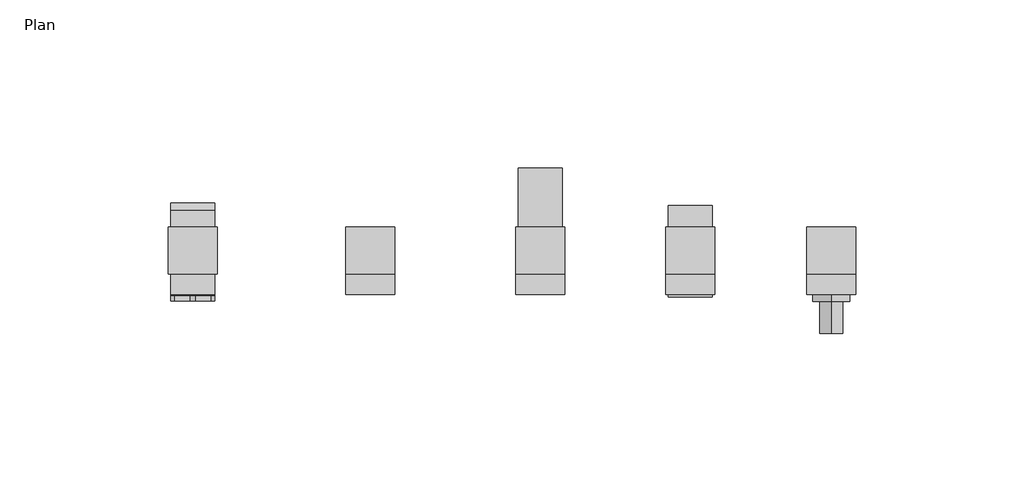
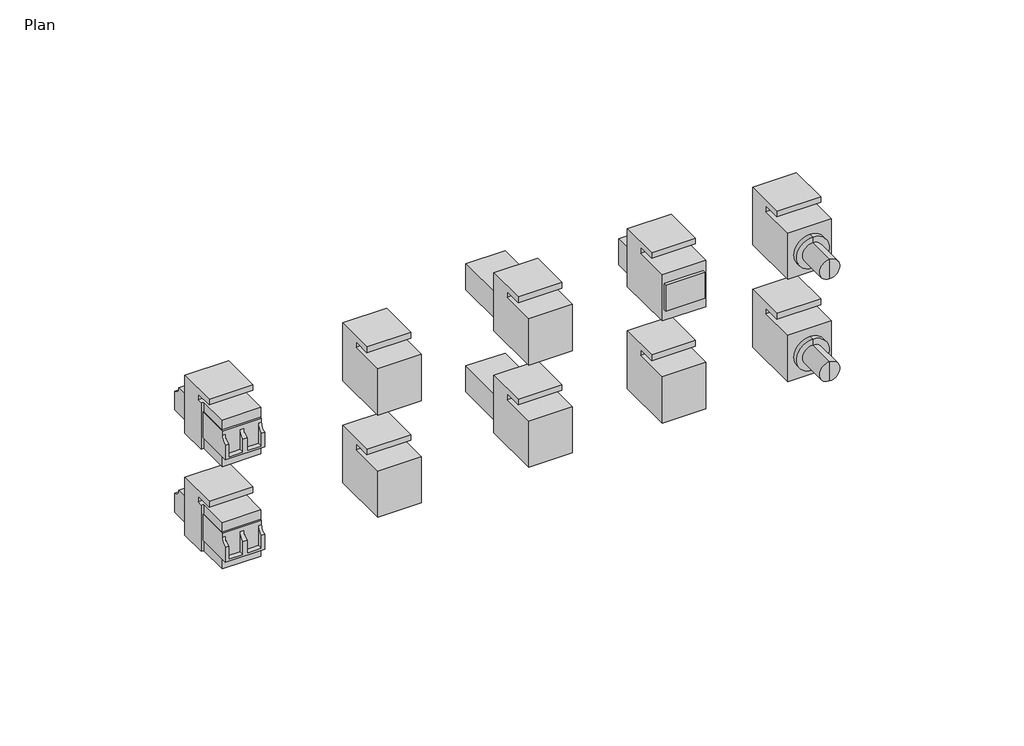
# One storey: 10 electric appliances.
"""IFC4 building model written with IfcOpenShell, lengths in millimetres."""

from ifc_helpers import new_model, si_unit, origin, place, context, project, spatial, transform, mapped, element, save
from components import electric_appliance_a3ce01c8, electric_appliance_db213199, electric_appliance_db336988, electric_appliance_df73d78d, blank_9616e23b, sc_single_mode_4f79853f

model = new_model("IFC4")

# Units and contexts
model_context = context("Model", 3, world=origin())
ifc_project = project(units=[si_unit("LENGTHUNIT", "METRE", prefix="MILLI")], contexts=[model_context])

# Site, building, storey
site = spatial("IfcSite", under=ifc_project)
building = spatial("IfcBuilding", under=site)
storey = spatial("IfcBuildingStorey", under=building, Name="Plan", Elevation=0.0)

# Electric appliances
placement = place(None, origin())
electric_appliance_shape = electric_appliance_a3ce01c8(model_context)
element("IfcElectricAppliance", 1, ObjectType="Data_Device-Network-Leviton-QuickPort-Adapter-Fiber : LC Multimode", at=placement, inside=storey, context=model_context, shape_type="MappedRepresentation", body=[
    mapped(electric_appliance_shape, transform((2342.1578608, -780.1325522, 305.4429313), x_axis=(1.0, 0.0, 0.0), y_axis=(0.0, 0.0, 1.0), z_axis=(0.0, -1.0, 0.0))),
])
electric_appliance_2_shape = electric_appliance_db213199(model_context)
element("IfcElectricAppliance", 2, ObjectType="Data_Device-Network-Leviton-QuickPort-Adapter-Fiber : SC Multimode", at=placement, inside=storey, context=model_context, shape_type="MappedRepresentation", body=[
    mapped(electric_appliance_2_shape, transform((2445.4586786, -780.1325522, 305.4429313), x_axis=(1.0, 0.0, 0.0), y_axis=(0.0, 0.0, 1.0), z_axis=(0.0, -1.0, 0.0))),
])
electric_appliance_3_shape = electric_appliance_db336988(model_context)
element("IfcElectricAppliance", 3, ObjectType="Data_Device-Network-Leviton-QuickPort-Adapter-Fiber : SC Single-mode, Laser Optimized", at=placement, inside=storey, context=model_context, shape_type="MappedRepresentation", body=[
    mapped(electric_appliance_3_shape, transform((2490.1025415, -780.1325522, 305.4429313), x_axis=(1.0, 0.0, 0.0), y_axis=(0.0, 0.0, 1.0), z_axis=(0.0, -1.0, 0.0))),
])
electric_appliance_4_shape = electric_appliance_df73d78d(model_context)
element("IfcElectricAppliance", 4, ObjectType="Data_Device-Network-Leviton-QuickPort-Adapter-Fiber : ST Multimode", at=placement, inside=storey, context=model_context, shape_type="MappedRepresentation", body=[
    mapped(electric_appliance_4_shape, transform((2532.0241507, -780.1325522, 305.4429313), x_axis=(1.0, 0.0, 0.0), y_axis=(0.0, 0.0, 1.0), z_axis=(0.0, -1.0, 0.0))),
])
blank_shape = blank_9616e23b(model_context)
element("IfcElectricAppliance", 5, ObjectType="Data_Device-Network-Leviton-QuickPort-Adapter-Fiber : Blank", at=placement, inside=storey, context=model_context, shape_type="MappedRepresentation", body=[
    mapped(blank_shape, transform((2490.1025415, -780.1325522, 269.3171069), x_axis=(1.0, 0.0, 0.0), y_axis=(0.0, 0.0, 1.0), z_axis=(0.0, -1.0, 0.0))),
])
element("IfcElectricAppliance", 6, ObjectType="Data_Device-Network-Leviton-QuickPort-Adapter-Fiber : LC Single-mode", at=placement, inside=storey, context=model_context, shape_type="MappedRepresentation", body=[
    mapped(electric_appliance_shape, transform((2342.1578608, -780.1325522, 269.3171069), x_axis=(1.0, 0.0, 0.0), y_axis=(0.0, 0.0, 1.0), z_axis=(0.0, -1.0, 0.0))),
])
element("IfcElectricAppliance", 7, ObjectType="Data_Device-Network-Leviton-QuickPort-Adapter-Fiber : MTP, Single-mode (aligned)", at=placement, inside=storey, context=model_context, shape_type="MappedRepresentation", body=[
    mapped(blank_shape, transform((2394.9588847, -780.1325522, 305.4429313), x_axis=(1.0, 0.0, 0.0), y_axis=(0.0, 0.0, 1.0), z_axis=(0.0, -1.0, 0.0))),
])
element("IfcElectricAppliance", 8, ObjectType="Data_Device-Network-Leviton-QuickPort-Adapter-Fiber : MTP, Single-mode (opposed)", at=placement, inside=storey, context=model_context, shape_type="MappedRepresentation", body=[
    mapped(blank_shape, transform((2394.9588847, -780.1325522, 269.3171069), x_axis=(1.0, 0.0, 0.0), y_axis=(0.0, 0.0, 1.0), z_axis=(0.0, -1.0, 0.0))),
])
sc_single_mode_shape = sc_single_mode_4f79853f(model_context)
element("IfcElectricAppliance", 9, ObjectType="Data_Device-Network-Leviton-QuickPort-Adapter-Fiber : SC Single-mode", at=placement, inside=storey, context=model_context, shape_type="MappedRepresentation", body=[
    mapped(sc_single_mode_shape, transform((2445.4586786, -780.1325522, 269.3171069), x_axis=(1.0, 0.0, 0.0), y_axis=(0.0, 0.0, 1.0), z_axis=(0.0, -1.0, 0.0))),
])
element("IfcElectricAppliance", 10, ObjectType="Data_Device-Network-Leviton-QuickPort-Adapter-Fiber : ST Single-mode", at=placement, inside=storey, context=model_context, shape_type="MappedRepresentation", body=[
    mapped(electric_appliance_4_shape, transform((2532.0241507, -780.1325522, 269.3171069), x_axis=(1.0, 0.0, 0.0), y_axis=(0.0, 0.0, 1.0), z_axis=(0.0, -1.0, 0.0))),
])

save(model, "model.ifc")
